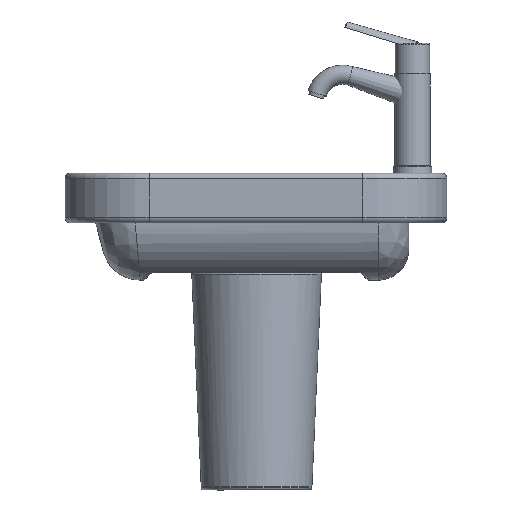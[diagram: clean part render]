
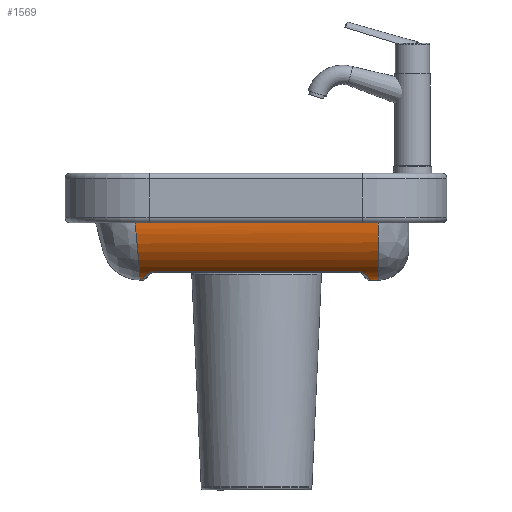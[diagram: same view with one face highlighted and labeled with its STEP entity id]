
A CAD part, front view. The second image highlights one B-rep face of the part: STEP entity #1569.
In plain terms, the highlighted cylindrical face has radius 75 mm (diameter 150 mm), a partial arc.
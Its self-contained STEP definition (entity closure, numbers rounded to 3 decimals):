
#341=CARTESIAN_POINT('',(66.11,-83.372,140.0));
#342=VERTEX_POINT('',#341);
#390=CARTESIAN_POINT('',(67.308,-65.595,137.863));
#391=VERTEX_POINT('',#390);
#399=CARTESIAN_POINT('',(108.138,-83.372,65.0));
#400=DIRECTION('',(0.872,0.0,0.489));
#401=DIRECTION('',(-0.489,0.0,0.872));
#402=AXIS2_PLACEMENT_3D('',#399,#400,#401);
#403=ELLIPSE('',#402,85.973,75.0);
#404=EDGE_CURVE('',#391,#342,#403,.T.);
#590=CARTESIAN_POINT('',(81.769,-44.221,128.971));
#591=VERTEX_POINT('',#590);
#599=CARTESIAN_POINT('',(81.769,-44.221,128.971));
#600=CARTESIAN_POINT('',(81.441,-44.221,128.971));
#601=CARTESIAN_POINT('',(80.782,-44.255,128.992));
#602=CARTESIAN_POINT('',(79.802,-44.41,129.086));
#603=CARTESIAN_POINT('',(78.848,-44.663,129.24));
#604=CARTESIAN_POINT('',(77.627,-45.119,129.513));
#605=CARTESIAN_POINT('',(76.184,-45.908,129.977));
#606=CARTESIAN_POINT('',(74.955,-46.881,130.527));
#607=CARTESIAN_POINT('',(74.182,-47.632,130.938));
#608=CARTESIAN_POINT('',(73.589,-48.264,131.277));
#609=CARTESIAN_POINT('',(73.068,-48.891,131.606));
#610=CARTESIAN_POINT('',(72.647,-49.462,131.897));
#611=CARTESIAN_POINT('',(72.396,-49.82,132.077));
#612=CARTESIAN_POINT('',(72.029,-50.364,132.348));
#613=CARTESIAN_POINT('',(71.261,-51.628,132.96));
#614=CARTESIAN_POINT('',(70.104,-53.991,134.033));
#615=CARTESIAN_POINT('',(68.917,-57.388,135.398));
#616=CARTESIAN_POINT('',(68.193,-60.418,136.42));
#617=CARTESIAN_POINT('',(67.668,-63.164,137.238));
#618=CARTESIAN_POINT('',(67.45,-64.552,137.608));
#619=CARTESIAN_POINT('',(67.308,-65.595,137.863));
#620=B_SPLINE_CURVE_WITH_KNOTS('',3,(#599,#600,#601,#602,#603,#604,#605,#606,#607,#608,#609,#610,#611,#612,#613,#614,#615,#616,#617,#618,#619),.UNSPECIFIED.,.F.,.U.,(4,1,1,1,1,1,1,1,1,1,1,1,1,1,1,1,1,1,4),(0.0,0.098,0.197,0.295,0.393,0.59,0.787,0.869,0.918,1.049,1.115,1.131,1.18,1.312,1.574,1.967,2.361,2.459,2.754),.UNSPECIFIED.);
#621=EDGE_CURVE('',#591,#391,#620,.T.);
#1052=CARTESIAN_POINT('',(363.915,-83.372,140.0));
#1053=VERTEX_POINT('',#1052);
#1108=CARTESIAN_POINT('',(362.718,-65.595,137.863));
#1109=VERTEX_POINT('',#1108);
#1127=CARTESIAN_POINT('',(321.888,-83.372,65.0));
#1128=DIRECTION('',(-0.872,0.0,0.489));
#1129=DIRECTION('',(0.489,0.0,0.872));
#1130=AXIS2_PLACEMENT_3D('',#1127,#1128,#1129);
#1131=ELLIPSE('',#1130,85.973,75.0);
#1132=EDGE_CURVE('',#1053,#1109,#1131,.T.);
#1271=CARTESIAN_POINT('',(348.257,-44.221,128.971));
#1272=VERTEX_POINT('',#1271);
#1303=CARTESIAN_POINT('',(362.718,-65.595,137.863));
#1304=CARTESIAN_POINT('',(362.528,-64.205,137.524));
#1305=CARTESIAN_POINT('',(362.074,-61.429,136.761));
#1306=CARTESIAN_POINT('',(361.323,-58.285,135.7));
#1307=CARTESIAN_POINT('',(360.649,-56.123,134.879));
#1308=CARTESIAN_POINT('',(360.275,-55.065,134.456));
#1309=CARTESIAN_POINT('',(359.951,-54.235,134.11));
#1310=CARTESIAN_POINT('',(359.439,-53.006,133.585));
#1311=CARTESIAN_POINT('',(358.766,-51.629,132.961));
#1312=CARTESIAN_POINT('',(357.741,-49.942,132.144));
#1313=CARTESIAN_POINT('',(356.705,-48.531,131.424));
#1314=CARTESIAN_POINT('',(355.366,-47.115,130.66));
#1315=CARTESIAN_POINT('',(353.842,-45.909,129.977));
#1316=CARTESIAN_POINT('',(352.399,-45.119,129.513));
#1317=CARTESIAN_POINT('',(351.178,-44.664,129.24));
#1318=CARTESIAN_POINT('',(350.224,-44.41,129.086));
#1319=CARTESIAN_POINT('',(349.243,-44.255,128.992));
#1320=CARTESIAN_POINT('',(348.585,-44.221,128.971));
#1321=CARTESIAN_POINT('',(348.257,-44.221,128.971));
#1322=B_SPLINE_CURVE_WITH_KNOTS('',3,(#1303,#1304,#1305,#1306,#1307,#1308,#1309,#1310,#1311,#1312,#1313,#1314,#1315,#1316,#1317,#1318,#1319,#1320,#1321),.UNSPECIFIED.,.F.,.U.,(4,1,1,1,1,1,1,1,1,1,1,1,1,1,1,1,4),(0.0,0.393,0.787,0.918,1.049,1.115,1.18,1.443,1.574,1.771,1.967,2.164,2.361,2.459,2.558,2.656,2.754),.UNSPECIFIED.);
#1323=EDGE_CURVE('',#1109,#1272,#1322,.T.);
#1334=CARTESIAN_POINT('',(348.257,-44.221,128.971));
#1335=DIRECTION('',(-1.0,0.0,0.0));
#1336=VECTOR('',#1335,266.488);
#1337=LINE('',#1334,#1336);
#1338=EDGE_CURVE('',#1272,#591,#1337,.T.);
#1517=CARTESIAN_POINT('',(295.013,-83.372,65.0));
#1518=DIRECTION('',(-1.0,0.0,0.0));
#1519=DIRECTION('',(0.0,0.707,0.707));
#1520=AXIS2_PLACEMENT_3D('',#1517,#1518,#1519);
#1521=CYLINDRICAL_SURFACE('',#1520,75.0);
#1522=ORIENTED_EDGE('',*,*,#404,.F.);
#1523=ORIENTED_EDGE('',*,*,#621,.F.);
#1524=ORIENTED_EDGE('',*,*,#1338,.F.);
#1525=ORIENTED_EDGE('',*,*,#1323,.F.);
#1526=ORIENTED_EDGE('',*,*,#1132,.F.);
#1527=CARTESIAN_POINT('',(375.013,-83.372,140.0));
#1528=VERTEX_POINT('',#1527);
#1529=CARTESIAN_POINT('',(375.013,-83.372,140.0));
#1530=DIRECTION('',(-1.0,0.0,0.0));
#1531=VECTOR('',#1530,11.097);
#1532=LINE('',#1529,#1531);
#1533=EDGE_CURVE('',#1528,#1053,#1532,.T.);
#1534=ORIENTED_EDGE('',*,*,#1533,.F.);
#1535=CARTESIAN_POINT('',(375.013,-8.372,65.));
#1536=VERTEX_POINT('',#1535);
#1537=CARTESIAN_POINT('',(375.013,-83.372,65.0));
#1538=DIRECTION('',(1.,0.0,0.0));
#1539=DIRECTION('',(0.0,0.707,0.707));
#1540=AXIS2_PLACEMENT_3D('',#1537,#1538,#1539);
#1541=CIRCLE('',#1540,75.);
#1542=EDGE_CURVE('',#1536,#1528,#1541,.T.);
#1543=ORIENTED_EDGE('',*,*,#1542,.F.);
#1544=CARTESIAN_POINT('',(56.777,-8.372,65.));
#1545=VERTEX_POINT('',#1544);
#1546=CARTESIAN_POINT('',(56.777,-8.372,65.));
#1547=DIRECTION('',(1.0,0.0,0.0));
#1548=VECTOR('',#1547,318.236);
#1549=LINE('',#1546,#1548);
#1550=EDGE_CURVE('',#1545,#1536,#1549,.T.);
#1551=ORIENTED_EDGE('',*,*,#1550,.F.);
#1552=CARTESIAN_POINT('',(63.475,-83.372,140.0));
#1553=VERTEX_POINT('',#1552);
#1554=CARTESIAN_POINT('',(56.777,-83.372,65.));
#1555=DIRECTION('',(-0.996,0.,0.089));
#1556=DIRECTION('',(0.089,0.0,0.996));
#1557=AXIS2_PLACEMENT_3D('',#1554,#1555,#1556);
#1558=ELLIPSE('',#1557,75.299,75.);
#1559=EDGE_CURVE('',#1553,#1545,#1558,.T.);
#1560=ORIENTED_EDGE('',*,*,#1559,.F.);
#1561=CARTESIAN_POINT('',(63.475,-83.372,140.0));
#1562=DIRECTION('',(1.0,0.0,0.0));
#1563=VECTOR('',#1562,2.635);
#1564=LINE('',#1561,#1563);
#1565=EDGE_CURVE('',#1553,#342,#1564,.T.);
#1566=ORIENTED_EDGE('',*,*,#1565,.T.);
#1567=EDGE_LOOP('',(#1522,#1523,#1524,#1525,#1526,#1534,#1543,#1551,#1560,#1566));
#1568=FACE_OUTER_BOUND('',#1567,.T.);
#1569=ADVANCED_FACE('',(#1568),#1521,.T.);
